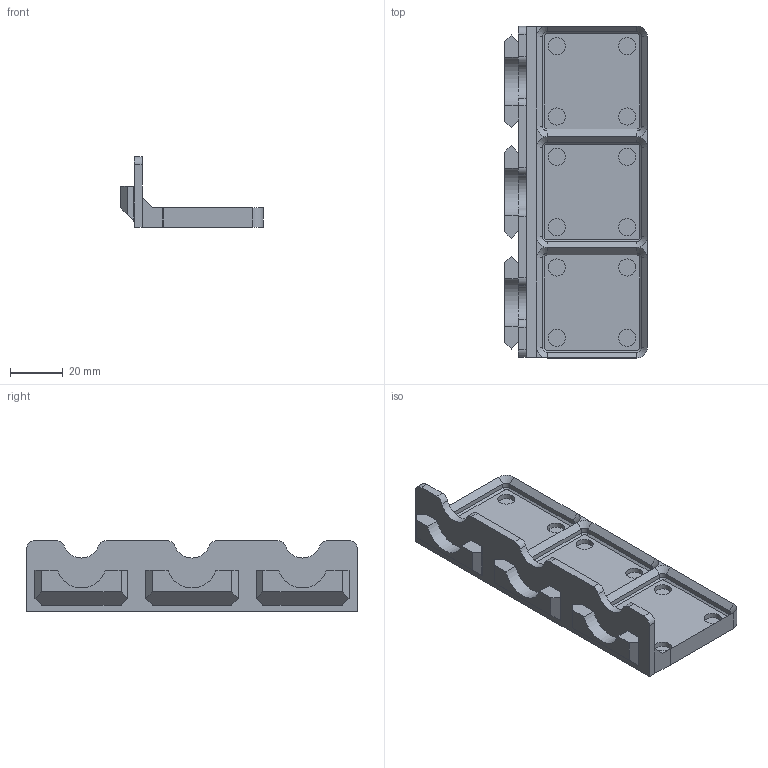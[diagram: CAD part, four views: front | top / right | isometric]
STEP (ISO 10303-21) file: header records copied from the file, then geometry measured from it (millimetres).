
FILE_DESCRIPTION(/* description */ ('','CAx-IF Rec.Pracs.---Representation and Presentation of Product Manufacturing Information (PMI)---4.0---2014-10-13'),/* implementation_level */ '2;1');
FILE_NAME(/* name */ 'Goews Triple Hanger Gridfinity with Magnets 1x3 Base v6.step',/* time_stamp */ '2024-12-14T22:28:10-05:00',/* author */ (''),/* organization */ (''),/* preprocessor_version */ 'ST-DEVELOPER v20',/* originating_system */ 'Autodesk Translation Framework v13.20.0.188',/* authorisation */ '');
FILE_SCHEMA (('AP242_MANAGED_MODEL_BASED_3D_ENGINEERING_MIM_LF { 1 0 10303 442 1 1 4 }'));
Length unit declared in the file: millimetre
Products named in the file (1): Goews Triple Hanger Gridfinity with Magnets  1x3 Base
Bounding box: 54.15 x 126 x 26.72 mm (x, y, z)
Volume: 35759.2 mm3; surface area: 22320 mm2
Topology: 1 solids, 1 shells, 182 faces, 405 edges, 240 vertices
Faces by surface type: plane 108, cylinder 50, cone 24
Full cylindrical faces by diameter (mm): 6.5 x12
Entity records: 4956 total; most frequent: DIRECTION 885, CARTESIAN_POINT 828, ORIENTED_EDGE 810, EDGE_CURVE 405, AXIS2_PLACEMENT_3D 297, LINE 291, VECTOR 291, VERTEX_POINT 240
